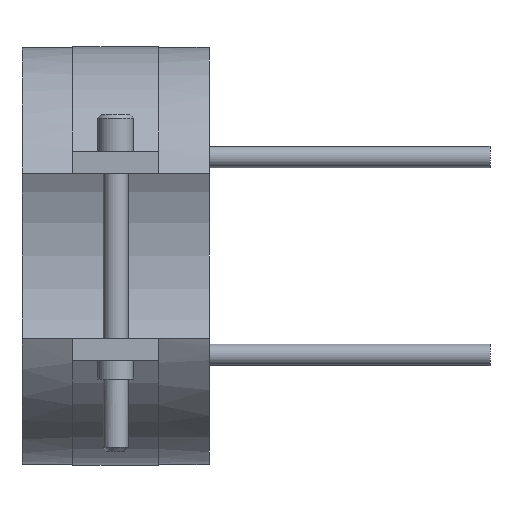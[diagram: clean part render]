
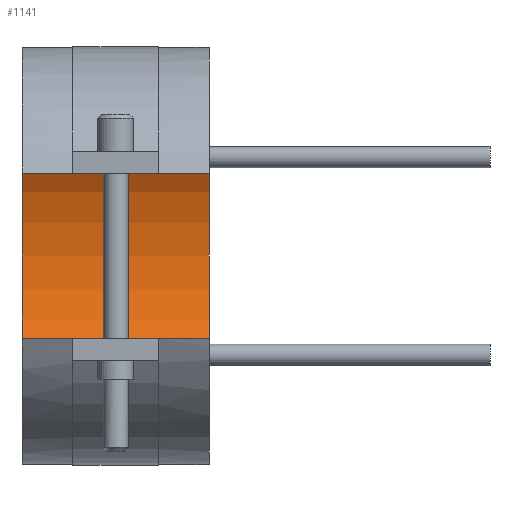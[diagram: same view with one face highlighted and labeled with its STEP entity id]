
A CAD part, front view. The second image highlights one B-rep face of the part: STEP entity #1141.
In plain terms, the highlighted cylindrical face has radius 35 mm (diameter 70 mm), a partial arc.
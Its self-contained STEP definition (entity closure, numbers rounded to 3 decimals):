
#822=CARTESIAN_POINT('Vertex',(-17.5,0.,-35.)) ;
#829=CARTESIAN_POINT('Vertex',(17.5,0.,-35.)) ;
#832=CARTESIAN_POINT('Line Origine',(17.5,0.,-35.)) ;
#850=CARTESIAN_POINT('Axis2P3D Location',(-17.5,0.,0.)) ;
#854=CARTESIAN_POINT('Vertex',(-17.5,0.,35.)) ;
#911=CARTESIAN_POINT('Vertex',(17.5,0.,35.)) ;
#921=CARTESIAN_POINT('Line Origine',(17.5,0.,35.)) ;
#1012=CARTESIAN_POINT('Axis2P3D Location',(17.5,0.,0.)) ;
#1130=CARTESIAN_POINT('Axis2P3D Location',(17.5,0.,0.)) ;
#833=DIRECTION('Vector Direction',(1.,0.,0.)) ;
#851=DIRECTION('Axis2P3D Direction',(1.,0.,0.)) ;
#922=DIRECTION('Vector Direction',(1.,0.,0.)) ;
#1013=DIRECTION('Axis2P3D Direction',(1.,0.,0.)) ;
#1131=DIRECTION('Axis2P3D Direction',(1.,0.,-0.)) ;
#1132=DIRECTION('Axis2P3D XDirection',(0.,0.,-1.)) ;
#852=AXIS2_PLACEMENT_3D('Circle Axis2P3D',#850,#851,$) ;
#1014=AXIS2_PLACEMENT_3D('Circle Axis2P3D',#1012,#1013,$) ;
#1133=AXIS2_PLACEMENT_3D('Cylinder Axis2P3D',#1130,#1131,#1132) ;
#1136=ORIENTED_EDGE('',*,*,#1016,.T.) ;
#1137=ORIENTED_EDGE('',*,*,#925,.T.) ;
#1138=ORIENTED_EDGE('',*,*,#856,.F.) ;
#1139=ORIENTED_EDGE('',*,*,#836,.T.) ;
#834=VECTOR('Line Direction',#833,1.) ;
#923=VECTOR('Line Direction',#922,1.) ;
#1141=ADVANCED_FACE('14070035',(#1140),#1134,.F.) ;
#853=CIRCLE('generated circle',#852,35.) ;
#1015=CIRCLE('generated circle',#1014,35.) ;
#1134=CYLINDRICAL_SURFACE('generated cylinder',#1133,35.) ;
#836=EDGE_CURVE('',#823,#830,#835,.T.) ;
#856=EDGE_CURVE('',#823,#855,#853,.T.) ;
#925=EDGE_CURVE('',#912,#855,#924,.F.) ;
#1016=EDGE_CURVE('',#830,#912,#1015,.T.) ;
#1135=EDGE_LOOP('',(#1136,#1137,#1138,#1139)) ;
#1140=FACE_OUTER_BOUND('',#1135,.T.) ;
#835=LINE('Line',#832,#834) ;
#924=LINE('Line',#921,#923) ;
#823=VERTEX_POINT('',#822) ;
#830=VERTEX_POINT('',#829) ;
#855=VERTEX_POINT('',#854) ;
#912=VERTEX_POINT('',#911) ;
